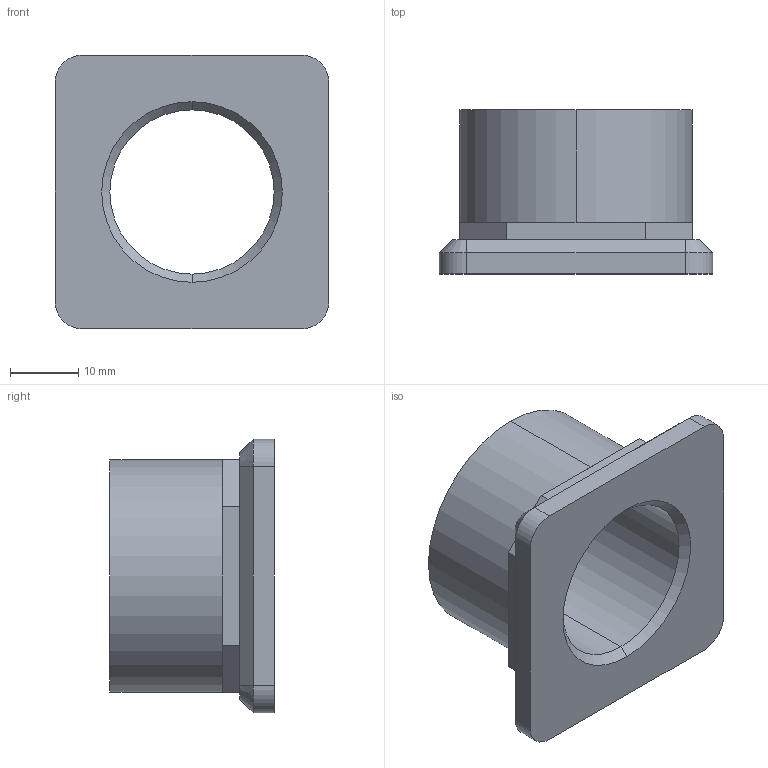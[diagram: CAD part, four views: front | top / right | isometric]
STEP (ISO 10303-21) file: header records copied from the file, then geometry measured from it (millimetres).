
FILE_DESCRIPTION (( 'STEP AP203' ), '1' );
FILE_NAME ('34670.W0044.step', '2017-06-26T08:13:45', ( 'User' ), ( '' ), 'SwSTEP 2.0', 'SolidWorks 2009', '' );
FILE_SCHEMA (( 'CONFIG_CONTROL_DESIGN' ));
Length unit declared in the file: millimetre
Products named in the file (1): 34670.W0044
Bounding box: 40 x 24 x 40 mm (x, y, z)
Volume: 14326.4 mm3; surface area: 6626.3 mm2
Topology: 1 solids, 1 shells, 39 faces, 90 edges, 54 vertices
Faces by surface type: plane 23, cone 8, cylinder 8
Entity records: 1167 total; most frequent: DIRECTION 196, CARTESIAN_POINT 184, ORIENTED_EDGE 180, EDGE_CURVE 90, AXIS2_PLACEMENT_3D 66, VECTOR 64, LINE 64, VERTEX_POINT 54
